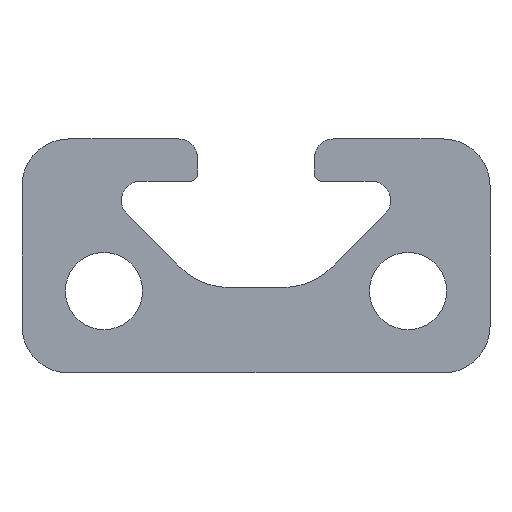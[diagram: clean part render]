
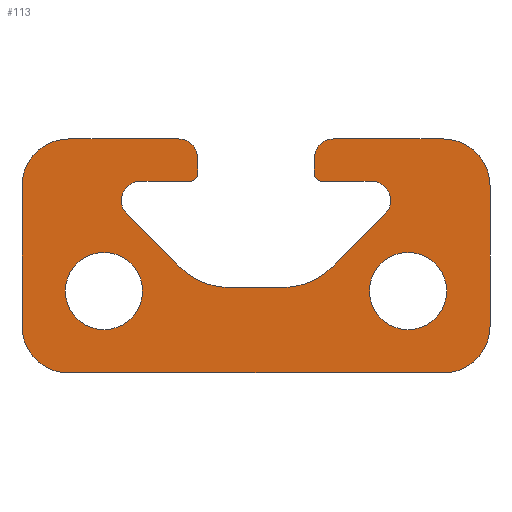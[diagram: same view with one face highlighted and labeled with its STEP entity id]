
A CAD part, front view. The second image highlights one B-rep face of the part: STEP entity #113.
In plain terms, the highlighted planar face has unit normal (0, -1, 0).
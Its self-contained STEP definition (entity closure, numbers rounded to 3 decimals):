
#113=ADVANCED_FACE('',(#222,#223,#224),#225,.T.);
#222=FACE_OUTER_BOUND('',#324,.T.);
#223=FACE_BOUND('',#325,.T.);
#224=FACE_BOUND('',#326,.T.);
#225=PLANE('',#327);
#324=EDGE_LOOP('',(#587,#588,#589,#590,#591,#592,#593,#594,#595,#596,#597,#598,#599,#600,#601,#602,#603,#604,#605,#606,#607,#608,#609,#610));
#325=EDGE_LOOP('',(#611,#612));
#326=EDGE_LOOP('',(#613,#614));
#327=AXIS2_PLACEMENT_3D('',#615,#616,#617);
#587=ORIENTED_EDGE('',*,*,#687,.T.);
#588=ORIENTED_EDGE('',*,*,#717,.F.);
#589=ORIENTED_EDGE('',*,*,#714,.F.);
#590=ORIENTED_EDGE('',*,*,#710,.F.);
#591=ORIENTED_EDGE('',*,*,#731,.F.);
#592=ORIENTED_EDGE('',*,*,#728,.F.);
#593=ORIENTED_EDGE('',*,*,#725,.F.);
#594=ORIENTED_EDGE('',*,*,#722,.F.);
#595=ORIENTED_EDGE('',*,*,#719,.F.);
#596=ORIENTED_EDGE('',*,*,#703,.F.);
#597=ORIENTED_EDGE('',*,*,#630,.T.);
#598=ORIENTED_EDGE('',*,*,#635,.T.);
#599=ORIENTED_EDGE('',*,*,#639,.T.);
#600=ORIENTED_EDGE('',*,*,#643,.T.);
#601=ORIENTED_EDGE('',*,*,#647,.T.);
#602=ORIENTED_EDGE('',*,*,#651,.T.);
#603=ORIENTED_EDGE('',*,*,#655,.T.);
#604=ORIENTED_EDGE('',*,*,#659,.T.);
#605=ORIENTED_EDGE('',*,*,#663,.T.);
#606=ORIENTED_EDGE('',*,*,#667,.T.);
#607=ORIENTED_EDGE('',*,*,#671,.T.);
#608=ORIENTED_EDGE('',*,*,#675,.T.);
#609=ORIENTED_EDGE('',*,*,#679,.T.);
#610=ORIENTED_EDGE('',*,*,#683,.T.);
#611=ORIENTED_EDGE('',*,*,#706,.T.);
#612=ORIENTED_EDGE('',*,*,#626,.T.);
#613=ORIENTED_EDGE('',*,*,#708,.T.);
#614=ORIENTED_EDGE('',*,*,#621,.T.);
#615=CARTESIAN_POINT('',(0.0,-50.0,0.0));
#616=DIRECTION('',(0.0,-1.0,0.0));
#617=DIRECTION('',(1.0,0.0,0.0));
#621=EDGE_CURVE('',#738,#735,#739,.T.);
#626=EDGE_CURVE('',#747,#744,#748,.T.);
#630=EDGE_CURVE('',#753,#754,#755,.T.);
#635=EDGE_CURVE('',#754,#762,#763,.T.);
#639=EDGE_CURVE('',#762,#768,#769,.T.);
#643=EDGE_CURVE('',#768,#774,#775,.T.);
#647=EDGE_CURVE('',#774,#780,#781,.T.);
#651=EDGE_CURVE('',#780,#786,#787,.T.);
#655=EDGE_CURVE('',#786,#792,#793,.T.);
#659=EDGE_CURVE('',#792,#798,#799,.T.);
#663=EDGE_CURVE('',#798,#804,#805,.T.);
#667=EDGE_CURVE('',#804,#810,#811,.T.);
#671=EDGE_CURVE('',#810,#816,#817,.T.);
#675=EDGE_CURVE('',#816,#822,#823,.T.);
#679=EDGE_CURVE('',#822,#828,#829,.T.);
#683=EDGE_CURVE('',#828,#834,#835,.T.);
#687=EDGE_CURVE('',#834,#840,#841,.T.);
#703=EDGE_CURVE('',#753,#866,#867,.T.);
#706=EDGE_CURVE('',#744,#747,#870,.T.);
#708=EDGE_CURVE('',#735,#738,#872,.T.);
#710=EDGE_CURVE('',#874,#875,#876,.T.);
#714=EDGE_CURVE('',#875,#880,#881,.T.);
#717=EDGE_CURVE('',#880,#840,#884,.T.);
#719=EDGE_CURVE('',#866,#886,#887,.T.);
#722=EDGE_CURVE('',#886,#890,#891,.T.);
#725=EDGE_CURVE('',#890,#894,#895,.T.);
#728=EDGE_CURVE('',#894,#898,#899,.T.);
#731=EDGE_CURVE('',#898,#874,#902,.T.);
#735=VERTEX_POINT('',#906);
#738=VERTEX_POINT('',#910);
#739=CIRCLE('',#911,1.65);
#744=VERTEX_POINT('',#917);
#747=VERTEX_POINT('',#921);
#748=CIRCLE('',#922,1.65);
#753=VERTEX_POINT('',#928);
#754=VERTEX_POINT('',#929);
#755=CIRCLE('',#930,0.8);
#762=VERTEX_POINT('',#939);
#763=LINE('',#940,#941);
#768=VERTEX_POINT('',#948);
#769=CIRCLE('',#949,0.3);
#774=VERTEX_POINT('',#955);
#775=LINE('',#956,#957);
#780=VERTEX_POINT('',#964);
#781=CIRCLE('',#965,0.832);
#786=VERTEX_POINT('',#971);
#787=LINE('',#972,#973);
#792=VERTEX_POINT('',#980);
#793=CIRCLE('',#981,3.);
#798=VERTEX_POINT('',#987);
#799=LINE('',#988,#989);
#804=VERTEX_POINT('',#996);
#805=CIRCLE('',#997,3.);
#810=VERTEX_POINT('',#1003);
#811=LINE('',#1004,#1005);
#816=VERTEX_POINT('',#1012);
#817=CIRCLE('',#1013,0.832);
#822=VERTEX_POINT('',#1019);
#823=LINE('',#1020,#1021);
#828=VERTEX_POINT('',#1028);
#829=CIRCLE('',#1029,0.3);
#834=VERTEX_POINT('',#1035);
#835=LINE('',#1036,#1037);
#840=VERTEX_POINT('',#1044);
#841=CIRCLE('',#1045,0.8);
#866=VERTEX_POINT('',#1076);
#867=LINE('',#1077,#1078);
#870=CIRCLE('',#1082,1.65);
#872=CIRCLE('',#1084,1.65);
#874=VERTEX_POINT('',#1086);
#875=VERTEX_POINT('',#1087);
#876=LINE('',#1088,#1089);
#880=VERTEX_POINT('',#1095);
#881=CIRCLE('',#1096,2.0);
#884=LINE('',#1100,#1101);
#886=VERTEX_POINT('',#1103);
#887=CIRCLE('',#1104,2.0);
#890=VERTEX_POINT('',#1108);
#891=LINE('',#1109,#1110);
#894=VERTEX_POINT('',#1114);
#895=CIRCLE('',#1115,2.0);
#898=VERTEX_POINT('',#1119);
#899=LINE('',#1120,#1121);
#902=CIRCLE('',#1125,2.0);
#906=CARTESIAN_POINT('',(-4.85,-50.0,-1.5));
#910=CARTESIAN_POINT('',(-8.15,-50.0,-1.5));
#911=AXIS2_PLACEMENT_3D('',#1129,#1130,#1131);
#917=CARTESIAN_POINT('',(8.15,-50.0,-1.5));
#921=CARTESIAN_POINT('',(4.85,-50.0,-1.5));
#922=AXIS2_PLACEMENT_3D('',#1137,#1138,#1139);
#928=CARTESIAN_POINT('',(3.3,-50.0,5.0));
#929=CARTESIAN_POINT('',(2.5,-50.0,4.2));
#930=AXIS2_PLACEMENT_3D('',#1144,#1145,#1146);
#939=CARTESIAN_POINT('',(2.5,-50.0,3.5));
#940=CARTESIAN_POINT('',(2.5,-50.0,1.925));
#941=VECTOR('',#1152,1.0);
#948=CARTESIAN_POINT('',(2.8,-50.0,3.2));
#949=AXIS2_PLACEMENT_3D('',#1155,#1156,#1157);
#955=CARTESIAN_POINT('',(4.918,-50.0,3.2));
#956=CARTESIAN_POINT('',(1.929,-50.0,3.2));
#957=VECTOR('',#1162,1.0);
#964=CARTESIAN_POINT('',(5.506,-50.0,1.779));
#965=AXIS2_PLACEMENT_3D('',#1165,#1166,#1167);
#971=CARTESIAN_POINT('',(3.256,-50.0,-0.471));
#972=CARTESIAN_POINT('',(3.122,-50.0,-0.605));
#973=VECTOR('',#1172,1.0);
#980=CARTESIAN_POINT('',(1.135,-50.0,-1.35));
#981=AXIS2_PLACEMENT_3D('',#1175,#1176,#1177);
#987=CARTESIAN_POINT('',(-1.135,-50.0,-1.35));
#988=CARTESIAN_POINT('',(0.,-50.0,-1.35));
#989=VECTOR('',#1182,1.0);
#996=CARTESIAN_POINT('',(-3.256,-50.0,-0.471));
#997=AXIS2_PLACEMENT_3D('',#1185,#1186,#1187);
#1003=CARTESIAN_POINT('',(-5.506,-50.0,1.779));
#1004=CARTESIAN_POINT('',(-3.122,-50.0,-0.605));
#1005=VECTOR('',#1192,1.0);
#1012=CARTESIAN_POINT('',(-4.918,-50.0,3.2));
#1013=AXIS2_PLACEMENT_3D('',#1195,#1196,#1197);
#1019=CARTESIAN_POINT('',(-2.8,-50.0,3.2));
#1020=CARTESIAN_POINT('',(-1.929,-50.0,3.2));
#1021=VECTOR('',#1202,1.0);
#1028=CARTESIAN_POINT('',(-2.5,-50.0,3.5));
#1029=AXIS2_PLACEMENT_3D('',#1205,#1206,#1207);
#1035=CARTESIAN_POINT('',(-2.5,-50.0,4.2));
#1036=CARTESIAN_POINT('',(-2.5,-50.0,1.925));
#1037=VECTOR('',#1212,1.0);
#1044=CARTESIAN_POINT('',(-3.3,-50.0,5.0));
#1045=AXIS2_PLACEMENT_3D('',#1215,#1216,#1217);
#1076=CARTESIAN_POINT('',(8.0,-50.0,5.0));
#1077=CARTESIAN_POINT('',(8.0,-50.0,5.0));
#1078=VECTOR('',#1245,1.0);
#1082=AXIS2_PLACEMENT_3D('',#1247,#1248,#1249);
#1084=AXIS2_PLACEMENT_3D('',#1250,#1251,#1252);
#1086=CARTESIAN_POINT('',(-10.0,-50.0,-3.0));
#1087=CARTESIAN_POINT('',(-10.0,-50.0,3.0));
#1088=CARTESIAN_POINT('',(-10.0,-50.0,3.0));
#1089=VECTOR('',#1253,1.0);
#1095=CARTESIAN_POINT('',(-8.0,-50.0,5.0));
#1096=AXIS2_PLACEMENT_3D('',#1256,#1257,#1258);
#1100=CARTESIAN_POINT('',(8.0,-50.0,5.0));
#1101=VECTOR('',#1260,1.0);
#1103=CARTESIAN_POINT('',(10.0,-50.0,3.0));
#1104=AXIS2_PLACEMENT_3D('',#1261,#1262,#1263);
#1108=CARTESIAN_POINT('',(10.0,-50.0,-3.0));
#1109=CARTESIAN_POINT('',(10.0,-50.0,-3.0));
#1110=VECTOR('',#1265,1.0);
#1114=CARTESIAN_POINT('',(8.0,-50.0,-5.0));
#1115=AXIS2_PLACEMENT_3D('',#1267,#1268,#1269);
#1119=CARTESIAN_POINT('',(-8.0,-50.0,-5.0));
#1120=CARTESIAN_POINT('',(-8.0,-50.0,-5.0));
#1121=VECTOR('',#1271,1.0);
#1125=AXIS2_PLACEMENT_3D('',#1273,#1274,#1275);
#1129=CARTESIAN_POINT('',(-6.5,-50.0,-1.5));
#1130=DIRECTION('',(-0.0,1.0,0.0));
#1131=DIRECTION('',(1.0,0.0,0.0));
#1137=CARTESIAN_POINT('',(6.5,-50.0,-1.5));
#1138=DIRECTION('',(-0.0,1.0,0.0));
#1139=DIRECTION('',(1.0,0.0,0.0));
#1144=CARTESIAN_POINT('',(3.3,-50.0,4.2));
#1145=DIRECTION('',(0.0,-1.0,0.0));
#1146=DIRECTION('',(0.0,0.0,1.0));
#1152=DIRECTION('',(0.0,0.0,-1.0));
#1155=CARTESIAN_POINT('',(2.8,-50.0,3.5));
#1156=DIRECTION('',(0.0,-1.0,0.0));
#1157=DIRECTION('',(-1.0,0.0,0.));
#1162=DIRECTION('',(1.0,0.0,-0.0));
#1165=CARTESIAN_POINT('',(4.918,-50.0,2.368));
#1166=DIRECTION('',(0.0,1.0,-0.0));
#1167=DIRECTION('',(0.707,-0.0,-0.707));
#1172=DIRECTION('',(-0.707,-0.0,-0.707));
#1175=CARTESIAN_POINT('',(1.135,-50.0,1.65));
#1176=DIRECTION('',(0.0,1.0,0.0));
#1177=DIRECTION('',(0.,0.0,-1.0));
#1182=DIRECTION('',(-1.0,-0.0,-0.0));
#1185=CARTESIAN_POINT('',(-1.135,-50.0,1.65));
#1186=DIRECTION('',(0.0,1.0,0.0));
#1187=DIRECTION('',(-0.707,0.0,-0.707));
#1192=DIRECTION('',(-0.707,0.0,0.707));
#1195=CARTESIAN_POINT('',(-4.918,-50.0,2.368));
#1196=DIRECTION('',(0.0,1.0,-0.0));
#1197=DIRECTION('',(0.,0.0,1.0));
#1202=DIRECTION('',(1.0,0.0,-0.0));
#1205=CARTESIAN_POINT('',(-2.8,-50.0,3.5));
#1206=DIRECTION('',(0.0,-1.0,0.0));
#1207=DIRECTION('',(0.0,0.0,-1.0));
#1212=DIRECTION('',(0.0,0.0,1.0));
#1215=CARTESIAN_POINT('',(-3.3,-50.0,4.2));
#1216=DIRECTION('',(0.0,-1.0,0.0));
#1217=DIRECTION('',(1.0,0.0,0.));
#1245=DIRECTION('',(1.0,0.0,0.0));
#1247=CARTESIAN_POINT('',(6.5,-50.0,-1.5));
#1248=DIRECTION('',(-0.0,1.0,0.0));
#1249=DIRECTION('',(1.0,0.0,0.0));
#1250=CARTESIAN_POINT('',(-6.5,-50.0,-1.5));
#1251=DIRECTION('',(-0.0,1.0,0.0));
#1252=DIRECTION('',(1.0,0.0,0.0));
#1253=DIRECTION('',(0.0,0.0,1.0));
#1256=CARTESIAN_POINT('',(-8.0,-50.0,3.0));
#1257=DIRECTION('',(0.0,1.0,-0.0));
#1258=DIRECTION('',(0.,0.0,1.0));
#1260=DIRECTION('',(1.0,0.0,0.0));
#1261=CARTESIAN_POINT('',(8.0,-50.0,3.0));
#1262=DIRECTION('',(-0.0,1.0,0.0));
#1263=DIRECTION('',(1.0,0.0,0.));
#1265=DIRECTION('',(-0.0,0.0,-1.0));
#1267=CARTESIAN_POINT('',(8.0,-50.0,-3.0));
#1268=DIRECTION('',(-0.0,1.0,0.0));
#1269=DIRECTION('',(0.0,0.0,-1.0));
#1271=DIRECTION('',(-1.0,0.0,-0.0));
#1273=CARTESIAN_POINT('',(-8.0,-50.0,-3.0));
#1274=DIRECTION('',(0.0,1.0,-0.0));
#1275=DIRECTION('',(-1.0,0.0,0.));
